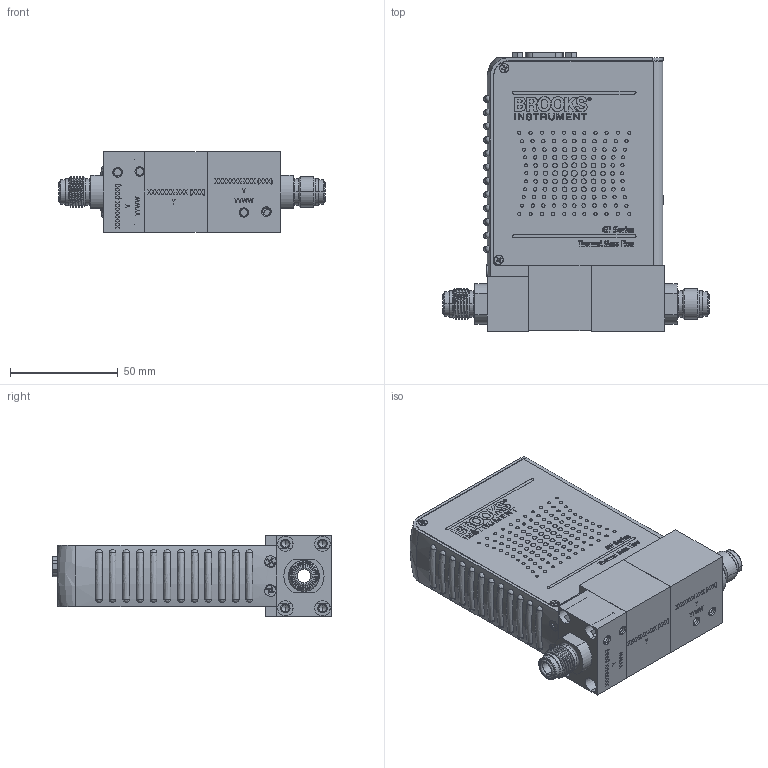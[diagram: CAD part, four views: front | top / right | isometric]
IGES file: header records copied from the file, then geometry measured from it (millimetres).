
Start section: SolidWorks IGES file using analytic representation for surfaces
Global section: file name: G:\Engineering\CAD MODELS FOR SALES\CAD MODEL STORAGE\GF\GF125\CUSTOMER FILES\IGES\GF100-GF120-GF125-VX-TX.IGS; native system: SolidWorks 2020; preprocessor: SolidWorks 2020; author: CFehr; date: 220923.095059; units: inch
Bounding box: 124.02 x 129.41 x 37.6 mm (x, y, z)
Volume: 77394.7 mm3; surface area: 87429.9 mm2
Topology: 189 solids, 189 shells, 3762 faces, 9563 edges, 6260 vertices
Faces by surface type: plane 2003, bspline 1096, revolution 663
